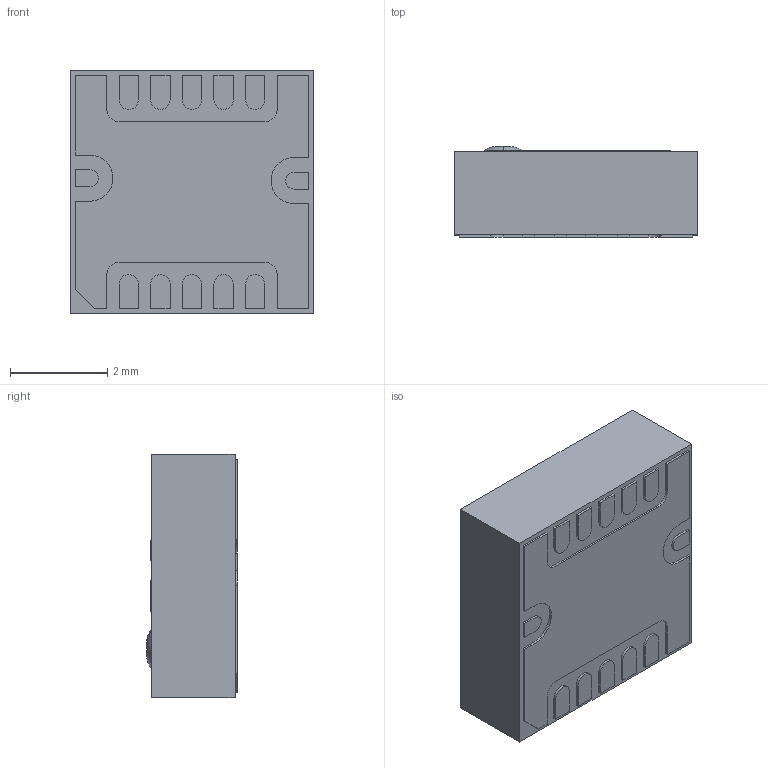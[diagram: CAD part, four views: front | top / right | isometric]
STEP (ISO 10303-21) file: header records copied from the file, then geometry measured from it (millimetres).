
FILE_DESCRIPTION (( 'STEP AP214' ), '1' );
FILE_NAME ('MAAL-011229_5mmAQFN-12LD_AP214.STEP', '2025-01-24T12:54:06', ( '' ), ( '' ), 'SwSTEP 2.0', 'SolidWorks 2023', '' );
FILE_SCHEMA (( 'AUTOMOTIVE_DESIGN' ));
Length unit declared in the file: millimetre
Products named in the file (1): MAAL-011229_5mmAQFN-12LD_AP214
Bounding box: 5 x 1.87 x 5 mm (x, y, z)
Volume: 44 mm3; surface area: 128 mm2
Topology: 30 solids, 30 shells, 957 faces, 2709 edges, 1812 vertices
Faces by surface type: plane 902, bspline 30, cylinder 23, torus 2
Entity records: 32663 total; most frequent: CARTESIAN_POINT 7629, ORIENTED_EDGE 5418, DIRECTION 4557, EDGE_CURVE 2709, VECTOR 2597, LINE 2597, VERTEX_POINT 1812, AXIS2_PLACEMENT_3D 980
